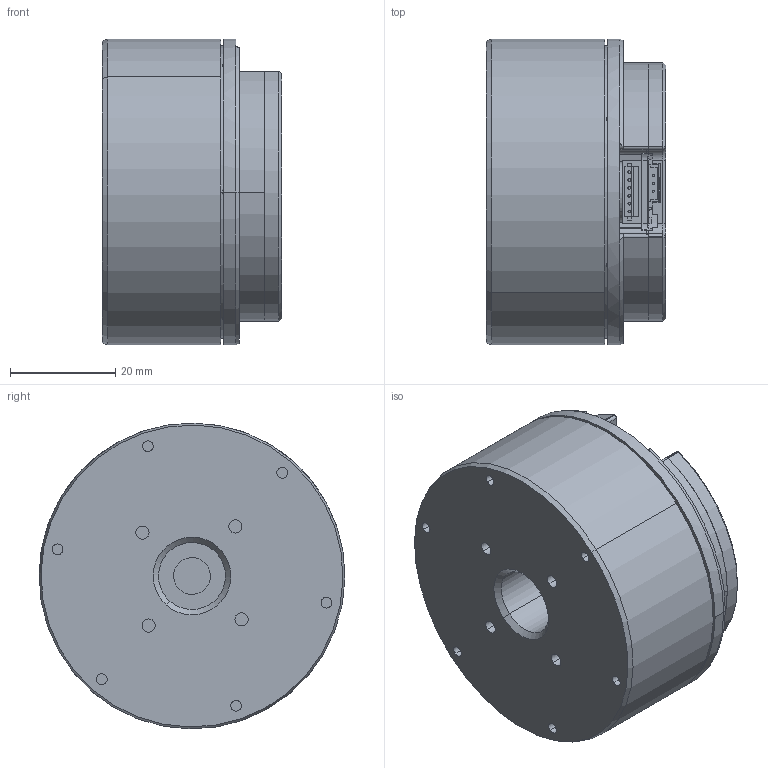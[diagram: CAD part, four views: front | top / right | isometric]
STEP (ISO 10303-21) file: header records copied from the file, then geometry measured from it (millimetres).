
FILE_DESCRIPTION (( 'STEP AP214' ), '1' );
FILE_NAME ('MS6015v2.STEP', '2022-09-05T08:03:17', ( '' ), ( '' ), 'SwSTEP 2.0', 'SolidWorks 2018', '' );
FILE_SCHEMA (( 'AUTOMOTIVE_DESIGN' ));
Length unit declared in the file: millimetre
Products named in the file (2): MS6015v2
Bounding box: 34 x 58 x 58 mm (x, y, z)
Surface area: 30662.6 mm2 (no closed solid volume)
Topology: 0 solids, 62 shells, 1307 faces, 3327 edges, 2162 vertices
Faces by surface type: plane 641, cylinder 416, bspline 161, cone 81, torus 6, sphere 2
Entity records: 58244 total; most frequent: CARTESIAN_POINT 12449, ORIENTED_EDGE 6550, DIRECTION 6079, EDGE_CURVE 3295, VERTEX_POINT 2162, AXIS2_PLACEMENT_3D 2104, VECTOR 1871, LINE 1871
